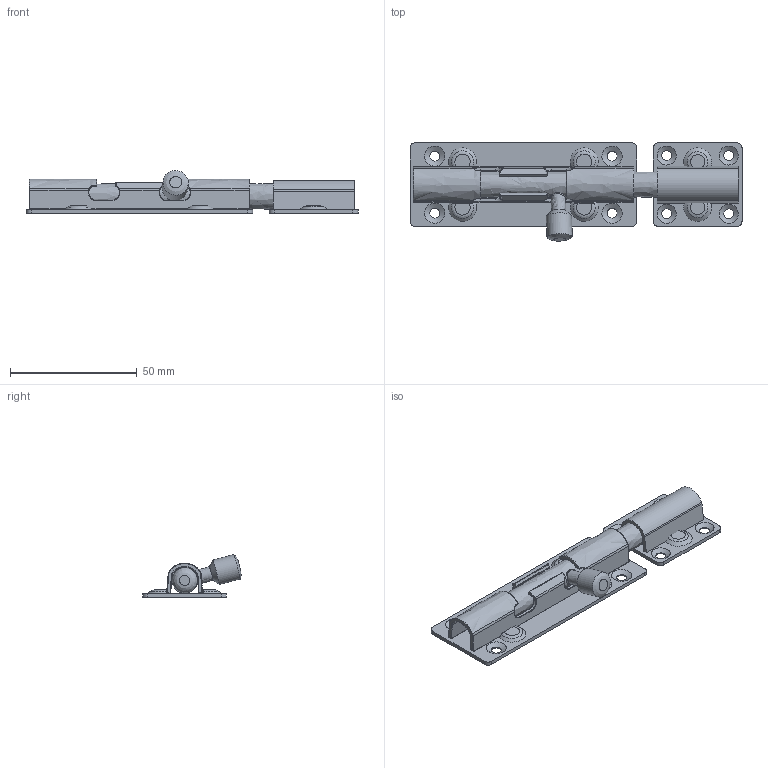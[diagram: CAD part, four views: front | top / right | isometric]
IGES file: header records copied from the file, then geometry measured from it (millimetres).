
Global section: file name: DR_ODS1-5; native system: Autodesk Inventor 2015; preprocessor: unknown; author: Administrator; date: 20170901.164109; units: millimetre
Bounding box: 131.05 x 38.81 x 16.9 mm (x, y, z)
Volume: 18869.3 mm3; surface area: 19442.4 mm2
Topology: 5 solids, 5 shells, 537 faces, 1333 edges, 805 vertices
Faces by surface type: bspline 537
